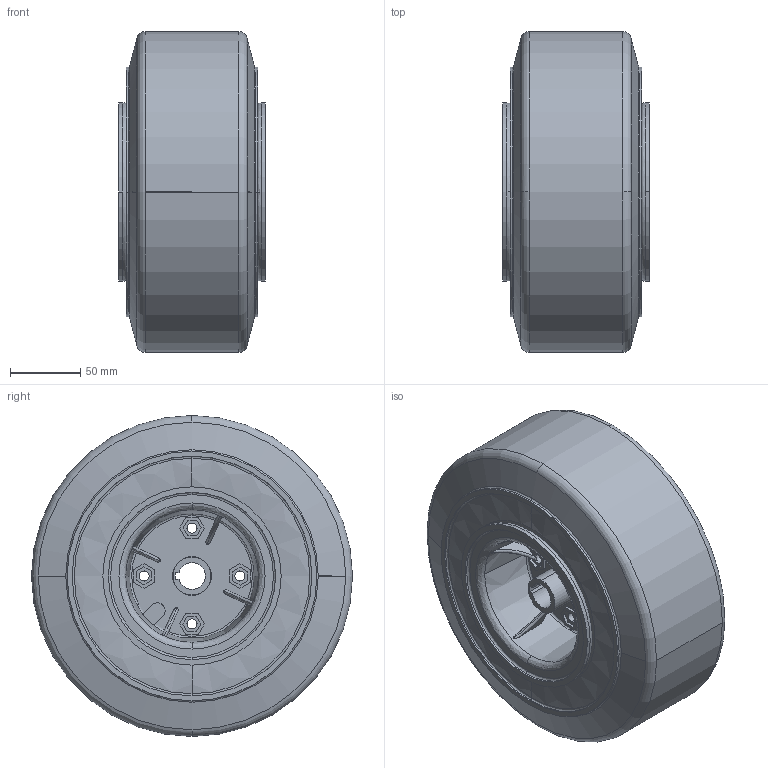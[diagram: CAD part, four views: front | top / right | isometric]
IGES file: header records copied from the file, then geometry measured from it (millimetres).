
Global section: file name: C:\Documents and Settings\Administrator\Desktop\Transfer Temp\skywaywheel2.igs; native system: AutoDesk Inventor R2.0 ; preprocessor: AutoDesk Inventor Iges Exporter R2.0; author: No Author specified; organization: No Organization specified; date: 20020126.190936; units: inch
Bounding box: 104.14 x 228.6 x 228.6 mm (x, y, z)
Surface area: 278212.5 mm2 (no closed solid volume)
Topology: 0 solids, 0 shells, 266 faces, 1394 edges, 1392 vertices
Faces by surface type: bspline 166, revolution 100
